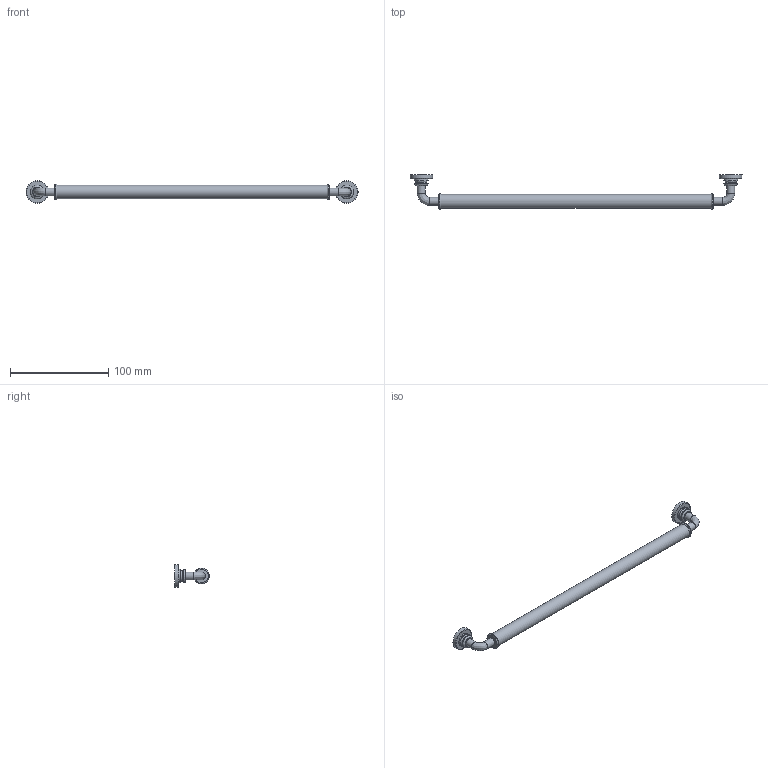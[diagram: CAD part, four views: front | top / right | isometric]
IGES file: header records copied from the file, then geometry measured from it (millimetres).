
Start section: Data from Parasolid IGES Translator 15.0.47, Copyright(c) 2006 Siemens P LM Software. All Rights Reserved.
Global section: file name: 9132274.igs; native system:  By UGS Corp.; preprocessor: XPlus GENERIC/IGES 3.0; author: Noname; organization: Noname; date: 20140122.102124; units: millimetre
Bounding box: 338 x 35 x 23 mm (x, y, z)
Surface area: 17122.7 mm2 (no closed solid volume)
Topology: 0 solids, 0 shells, 50 faces, 228 edges, 188 vertices
Faces by surface type: revolution 42, extrusion 8
